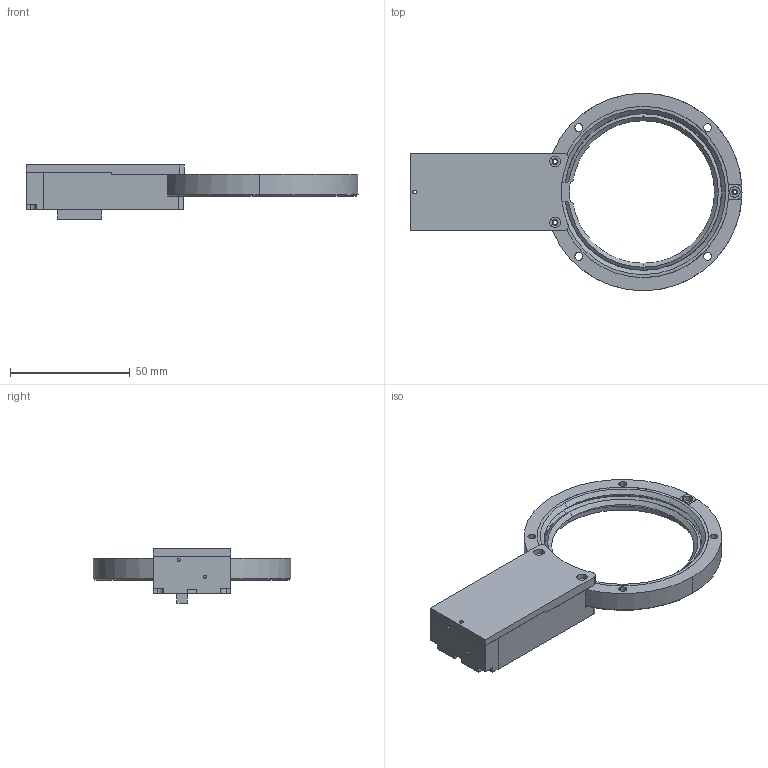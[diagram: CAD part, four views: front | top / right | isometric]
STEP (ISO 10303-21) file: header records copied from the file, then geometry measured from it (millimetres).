
FILE_DESCRIPTION (( 'STEP AP203' ), '1' );
FILE_NAME ('I0024-1000-00-A.STEP', '2025-06-27T05:42:34', ( '' ), ( '' ), 'SwSTEP 2.0', 'SolidWorks 2022', '' );
FILE_SCHEMA (( 'CONFIG_CONTROL_DESIGN' ));
Length unit declared in the file: millimetre
Products named in the file (1): I0024-1000-00-A
Bounding box: 138.6 x 82.5 x 22.65 mm (x, y, z)
Surface area: 24707.3 mm2 (no closed solid volume)
Topology: 0 solids, 7 shells, 140 faces, 465 edges, 332 vertices
Faces by surface type: cylinder 64, plane 45, cone 26, bspline 5
Entity records: 5256 total; most frequent: CARTESIAN_POINT 1025, DIRECTION 900, ORIENTED_EDGE 779, EDGE_CURVE 465, VERTEX_POINT 332, AXIS2_PLACEMENT_3D 331, LINE 238, VECTOR 238
